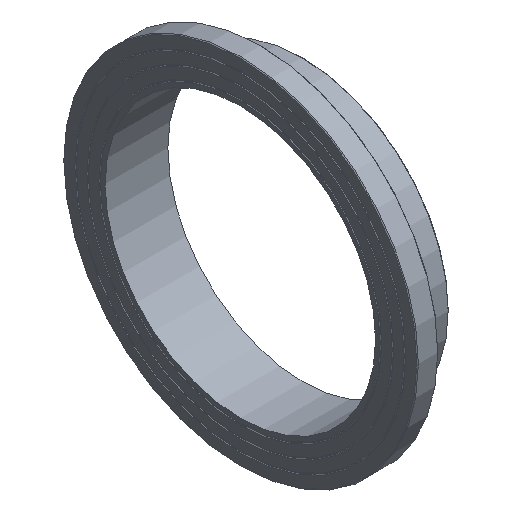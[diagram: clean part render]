
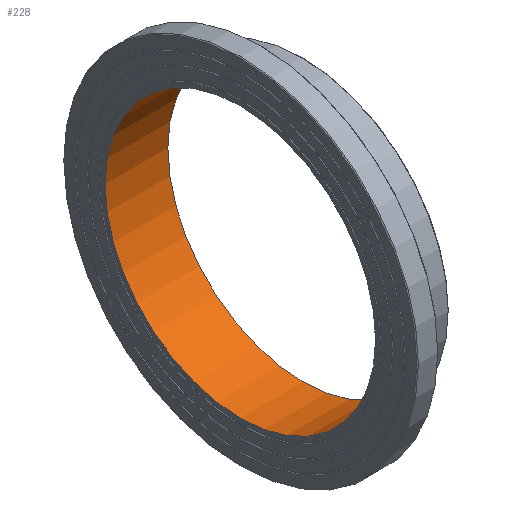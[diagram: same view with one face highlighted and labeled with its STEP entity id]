
A CAD part, isometric view. The second image highlights one B-rep face of the part: STEP entity #228.
In plain terms, the highlighted cylindrical face has radius 258.6 mm (diameter 517.2 mm), a full revolution.
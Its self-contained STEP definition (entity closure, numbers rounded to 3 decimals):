
#33=CYLINDRICAL_SURFACE('',#274,258.6);
#50=ORIENTED_EDGE('',*,*,#79,.F.);
#51=ORIENTED_EDGE('',*,*,#76,.T.);
#76=EDGE_CURVE('',#96,#96,#116,.T.);
#79=EDGE_CURVE('',#99,#99,#119,.T.);
#96=VERTEX_POINT('',#383);
#99=VERTEX_POINT('',#390);
#116=CIRCLE('',#257,258.6);
#119=CIRCLE('',#261,258.6);
#150=EDGE_LOOP('',(#50));
#151=EDGE_LOOP('',(#51));
#190=FACE_BOUND('',#150,.T.);
#191=FACE_BOUND('',#151,.T.);
#228=ADVANCED_FACE('',(#190,#191),#33,.F.);
#257=AXIS2_PLACEMENT_3D('',#382,#303,#304);
#261=AXIS2_PLACEMENT_3D('',#389,#311,#312);
#274=AXIS2_PLACEMENT_3D('',#410,#337,#338);
#303=DIRECTION('',(-1.,0.,0.));
#304=DIRECTION('',(0.,0.,1.));
#311=DIRECTION('',(-1.,0.,0.));
#312=DIRECTION('',(0.,0.,1.));
#337=DIRECTION('',(-1.,0.,0.));
#338=DIRECTION('',(0.,0.,1.));
#382=CARTESIAN_POINT('',(0.,0.,0.));
#383=CARTESIAN_POINT('',(0.,0.,258.6));
#389=CARTESIAN_POINT('',(120.,0.,0.));
#390=CARTESIAN_POINT('',(120.,0.,258.6));
#410=CARTESIAN_POINT('',(60.,0.,0.));
